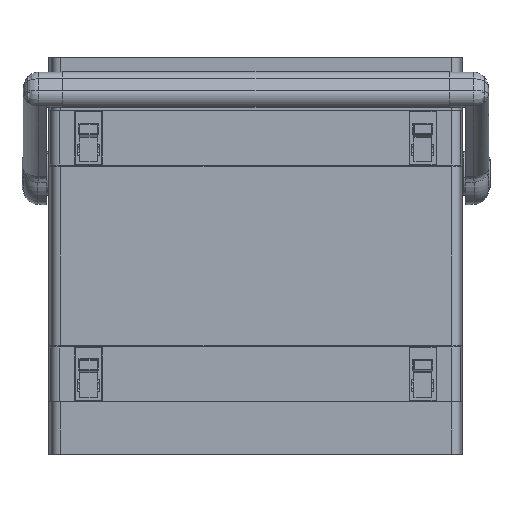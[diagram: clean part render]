
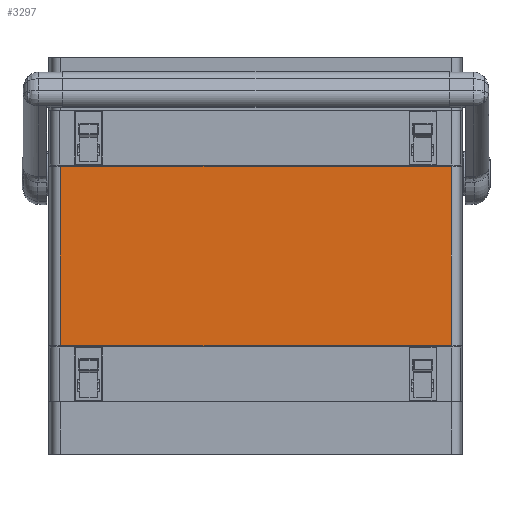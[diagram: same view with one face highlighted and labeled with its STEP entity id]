
A CAD part, front view. The second image highlights one B-rep face of the part: STEP entity #3297.
In plain terms, the highlighted planar face has unit normal (0, -1, 0).
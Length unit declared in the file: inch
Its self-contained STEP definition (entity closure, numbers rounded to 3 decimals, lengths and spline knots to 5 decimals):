
#3297 = ADVANCED_FACE ( 'NONE', ( #40212 ), #56932, .F. ) ;
#5288 = VECTOR ( 'NONE', #98388, 39.37008 ) ;
#8717 = EDGE_CURVE ( 'NONE', #93087, #50471, #61347, .T. ) ;
#11135 = CARTESIAN_POINT ( 'NONE',  ( 4.85624, 0., -2.236 ) ) ;
#11457 = ORIENTED_EDGE ( 'NONE', *, *, #19192, .T. ) ;
#13998 = ORIENTED_EDGE ( 'NONE', *, *, #32051, .F. ) ;
#15400 = VERTEX_POINT ( 'NONE', #64778 ) ;
#15496 = VECTOR ( 'NONE', #54492, 39.37008 ) ;
#19192 = EDGE_CURVE ( 'NONE', #15400, #35062, #75331, .T. ) ;
#19240 = EDGE_CURVE ( 'NONE', #93087, #15400, #45969, .T. ) ;
#19876 = CARTESIAN_POINT ( 'NONE',  ( 4.85624, 0., 4.925 ) ) ;
#25260 = DIRECTION ( 'NONE',  ( 0., 1., 0. ) ) ;
#26305 = DIRECTION ( 'NONE',  ( 0., 0., 1. ) ) ;
#28017 = AXIS2_PLACEMENT_3D ( 'NONE', #19876, #25260, #26305 ) ;
#29171 = CARTESIAN_POINT ( 'NONE',  ( 4.85624, 0., 2.236 ) ) ;
#32051 = EDGE_CURVE ( 'NONE', #50471, #35062, #53600, .T. ) ;
#33968 = CARTESIAN_POINT ( 'NONE',  ( -4.85624, 0., 4.925 ) ) ;
#35062 = VERTEX_POINT ( 'NONE', #11135 ) ;
#40212 = FACE_OUTER_BOUND ( 'NONE', #100979, .T. ) ;
#42211 = DIRECTION ( 'NONE',  ( 0., 0., -1. ) ) ;
#45969 = LINE ( 'NONE', #33968, #65106 ) ;
#50471 = VERTEX_POINT ( 'NONE', #29171 ) ;
#50917 = CARTESIAN_POINT ( 'NONE',  ( -4.85624, 0., 2.236 ) ) ;
#53600 = LINE ( 'NONE', #102035, #94267 ) ;
#54492 = DIRECTION ( 'NONE',  ( 1., 0., 0. ) ) ;
#56932 = PLANE ( 'NONE',  #28017 ) ;
#57863 = CARTESIAN_POINT ( 'NONE',  ( -5.661, 0., -2.236 ) ) ;
#61347 = LINE ( 'NONE', #94988, #15496 ) ;
#64778 = CARTESIAN_POINT ( 'NONE',  ( -4.85624, 0., -2.236 ) ) ;
#65106 = VECTOR ( 'NONE', #42211, 39.37008 ) ;
#75331 = LINE ( 'NONE', #57863, #5288 ) ;
#93087 = VERTEX_POINT ( 'NONE', #50917 ) ;
#93812 = DIRECTION ( 'NONE',  ( 0., 0., -1. ) ) ;
#94267 = VECTOR ( 'NONE', #93812, 39.37008 ) ;
#94988 = CARTESIAN_POINT ( 'NONE',  ( -5.661, 0., 2.236 ) ) ;
#95387 = ORIENTED_EDGE ( 'NONE', *, *, #19240, .T. ) ;
#98388 = DIRECTION ( 'NONE',  ( 1., 0., 0. ) ) ;
#100979 = EDGE_LOOP ( 'NONE', ( #95387, #11457, #13998, #101412 ) ) ;
#101412 = ORIENTED_EDGE ( 'NONE', *, *, #8717, .F. ) ;
#102035 = CARTESIAN_POINT ( 'NONE',  ( 4.85624, 0., 4.925 ) ) ;
